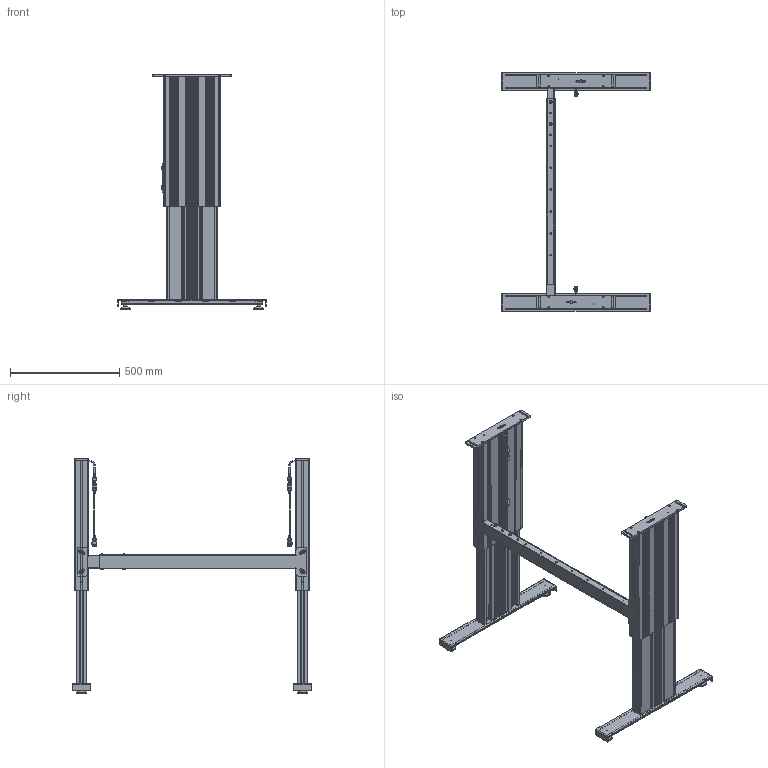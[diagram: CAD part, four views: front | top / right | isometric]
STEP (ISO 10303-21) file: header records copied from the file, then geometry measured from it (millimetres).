
FILE_DESCRIPTION(/* description */ ('Unknown'),/* implementation_level */ '2;1');
FILE_NAME(/* name */ 'Untergestell SL-2 1340 960-1610 XX XX_01-Ausgefahren',/* time_stamp */ '2022-01-25T16:44:07+01:00',/* author */ ('Unknown'),/* organization */ ('Unknown'),/* preprocessor_version */ 'ST-DEVELOPER v18.1',/* originating_system */ 'Solid Edge',/* authorisation */ 'Unknown');
FILE_SCHEMA (('AUTOMOTIVE_DESIGN {1 0 10303 214 3 1 1}'));
Products named in the file (34): Untergestell SL-2 1340 960-1610 XX XX; 901.01104_oa_0; 126.00137; 119.00302; 119.00401; 142.00166; 124.00201_oa_1; 142.00241; 110.00113_oa_2; 115.00200_oa_3; 124.00151; Kabel Motor Sx; 142.00341; 901.01104_oa_4; 124.00201_oa_5; 110.00113_oa_6; 115.00200_oa_7; 127.00635; 060339~2; 060340~3; Sechskantmutter M6 DIN 934; Scheibe Ø6,4 DIN 125; Halbrundkopfschraube mit Innensechskant M8x12 ISO 7380-1; Scheibe Ø8,4 DIN 125; Nutenstein M8_montiert; Halbrundkopfschraube mit Innensechskant und Bund M6x16 ISO 7380-2; 127.00515; 127.00520; 127.00556; 127.00557; 127.00520_461_469_Kehlnaht 1_oa_8; 113.00006; 113.00006-ohne Mutter; Mutter M10
Assembly tree (71 placements, depth 4):
  Untergestell SL-2 1340 960-1610 XX XX
    901.01104_oa_0
      126.00137
      119.00302
      119.00401
      142.00166  x4
      124.00201_oa_1
      142.00241  x2
      110.00113_oa_2
      115.00200_oa_3
      124.00151
      Kabel Motor Sx
      142.00341  x2
    901.01104_oa_4
      126.00137
      119.00302
      119.00401
      142.00166  x4
      124.00201_oa_5
      142.00241  x2
      110.00113_oa_6
      115.00200_oa_7
      124.00151
      Kabel Motor Sx
      142.00341  x2
    127.00635
      060339~2
      060340~3
      Sechskantmutter M6 DIN 934  x4
      Scheibe Ø6,4 DIN 125  x4
      Halbrundkopfschraube mit Innensechskant M8x12 ISO 7380-1  x4
      Scheibe Ø8,4 DIN 125  x4
      Nutenstein M8_montiert  x4
      Halbrundkopfschraube mit Innensechskant und Bund M6x16 ISO 7380-2  x4
    127.00515  x2
      127.00520
        127.00556
        127.00557
        127.00520_461_469_Kehlnaht 1_oa_8
      113.00006
        113.00006-ohne Mutter
        Mutter M10
Bounding box: 680 x 1090 x 1075 mm (x, y, z)
Volume: 8019208.1 mm3; surface area: 4993858.9 mm2
Topology: 88 solids, 88 shells, 7792 faces, 21595 edges, 14243 vertices
Faces by surface type: plane 4422, cylinder 2736, torus 286, bspline 224, cone 108, sphere 16
Full cylindrical faces by diameter (mm): 1.5 x12, 1.82 x12, 2.459 x2, 2.7 x12, 3.242 x8, 3.4 x2, 4 x8, 5 x10, 5.5 x8, 6 x14, 6.4 x4, 6.647 x4, 7 x24, 7.5 x16, 8 x4, 8.376 x10, 8.5 x20, 8.7 x8, 9.5 x4, 10 x4, 12 x4, 13.6 x4, 14 x20, 15 x4, 16.8 x4, 19 x4, 25 x4, 29 x4, 30 x4, 35 x4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
Entity records: 140700 total; most frequent: CARTESIAN_POINT 26062, ORIENTED_EDGE 20176, DIRECTION 19731, EDGE_CURVE 10088, VERTEX_POINT 6752, AXIS2_PLACEMENT_3D 6627, LINE 6477, VECTOR 6477
